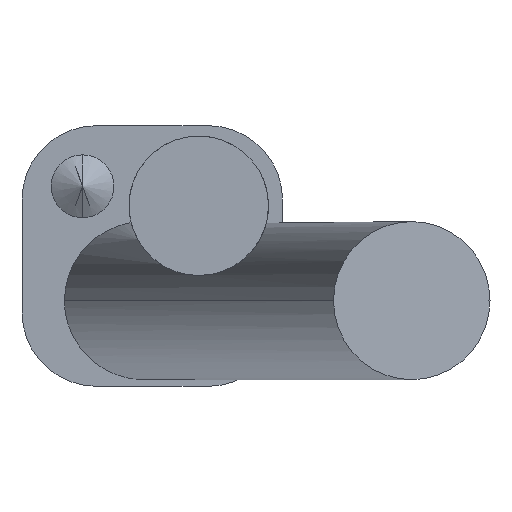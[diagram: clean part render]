
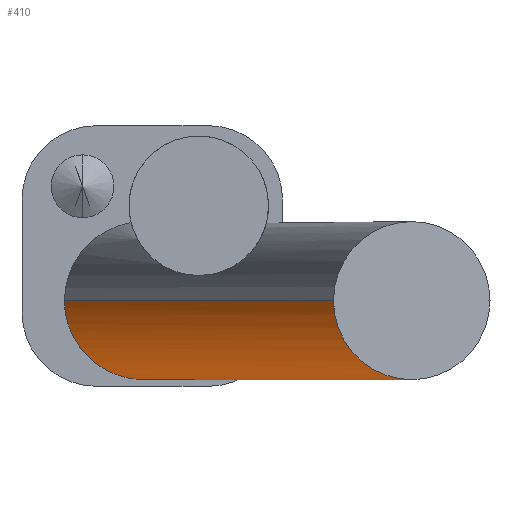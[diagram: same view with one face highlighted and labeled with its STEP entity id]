
A CAD part, front view. The second image highlights one B-rep face of the part: STEP entity #410.
In plain terms, the highlighted cylindrical face has radius 8.5 mm (diameter 17 mm), a partial arc.
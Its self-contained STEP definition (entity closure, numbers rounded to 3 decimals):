
#3 = CARTESIAN_POINT ( 'NONE',  ( 7.722, 0., -21.8 ) ) ;
#40 = ORIENTED_EDGE ( 'NONE', *, *, #653, .T. ) ;
#41 = DIRECTION ( 'NONE',  ( -0.99, -0.139, 0. ) ) ;
#55 = CARTESIAN_POINT ( 'NONE',  ( -9.445, 0., -4.8 ) ) ;
#90 = CARTESIAN_POINT ( 'NONE',  ( 19.488, -205.871, -4.8 ) ) ;
#101 = ORIENTED_EDGE ( 'NONE', *, *, #334, .F. ) ;
#106 = ORIENTED_EDGE ( 'NONE', *, *, #135, .F. ) ;
#115 = CYLINDRICAL_SURFACE ( 'NONE', #597, 8.5 ) ;
#118 = CARTESIAN_POINT ( 'NONE',  ( 7.722, 0., -4.8 ) ) ;
#135 = EDGE_CURVE ( 'NONE', #559, #403, #640, .T. ) ;
#161 = CARTESIAN_POINT ( 'NONE',  ( -9.445, 0., -4.8 ) ) ;
#173 = CARTESIAN_POINT ( 'NONE',  ( -9.445, 0., -21.8 ) ) ;
#222 = CARTESIAN_POINT ( 'NONE',  ( 7.722, 0., -4.8 ) ) ;
#224 = CARTESIAN_POINT ( 'NONE',  ( 27.906, -204.688, -4.8 ) ) ;
#234 = VECTOR ( 'NONE', #677, 1000. ) ;
#252 = VERTEX_POINT ( 'NONE', #90 ) ;
#280 = ORIENTED_EDGE ( 'NONE', *, *, #297, .F. ) ;
#282 = CARTESIAN_POINT ( 'NONE',  ( 36.323, -203.505, -4.8 ) ) ;
#297 = EDGE_CURVE ( 'NONE', #252, #364, #704, .T. ) ;
#310 = EDGE_LOOP ( 'NONE', ( #101, #280, #40, #106 ) ) ;
#316 = VECTOR ( 'NONE', #566, 1000. ) ;
#319 = CARTESIAN_POINT ( 'NONE',  ( 27.906, -204.688, -4.8 ) ) ;
#334 = EDGE_CURVE ( 'NONE', #364, #559, #556, .T. ) ;
#364 = VERTEX_POINT ( 'NONE', #446 ) ;
#403 = VERTEX_POINT ( 'NONE', #161 ) ;
#410 = ADVANCED_FACE ( 'NONE', ( #467 ), #115, .T. ) ;
#425 = DIRECTION ( 'NONE',  ( 0.139, -0.99, 0. ) ) ;
#440 = DIRECTION ( 'NONE',  ( -0.139, 0.99, 0. ) ) ;
#446 = CARTESIAN_POINT ( 'NONE',  ( 36.323, -203.505, -4.8 ) ) ;
#453 = CARTESIAN_POINT ( 'NONE',  ( 19.488, -205.871, -4.8 ) ) ;
#467 = FACE_OUTER_BOUND ( 'NONE', #310, .T. ) ;
#553 = DIRECTION ( 'NONE',  ( 0.99, 0.139, 0. ) ) ;
#556 = LINE ( 'NONE', #282, #316 ) ;
#559 = VERTEX_POINT ( 'NONE', #222 ) ;
#566 = DIRECTION ( 'NONE',  ( -0.139, 0.99, 0. ) ) ;
#597 = AXIS2_PLACEMENT_3D ( 'NONE', #224, #440, #41 ) ;
#640 =( BOUNDED_CURVE ( )  B_SPLINE_CURVE ( 3, ( #118, #3, #173, #55 ),
 .UNSPECIFIED., .F., .T. ) 
 B_SPLINE_CURVE_WITH_KNOTS ( ( 4, 4 ),
 ( 3.142, 6.283 ),
 .UNSPECIFIED. ) 
 CURVE ( )  GEOMETRIC_REPRESENTATION_ITEM ( )  RATIONAL_B_SPLINE_CURVE ( ( 1., 0.333, 0.333, 1. ) ) 
 REPRESENTATION_ITEM ( '' )  );
#653 = EDGE_CURVE ( 'NONE', #252, #403, #655, .T. ) ;
#655 = LINE ( 'NONE', #453, #234 ) ;
#677 = DIRECTION ( 'NONE',  ( -0.139, 0.99, 0. ) ) ;
#686 = AXIS2_PLACEMENT_3D ( 'NONE', #319, #425, #553 ) ;
#704 = CIRCLE ( 'NONE', #686, 8.5 ) ;
